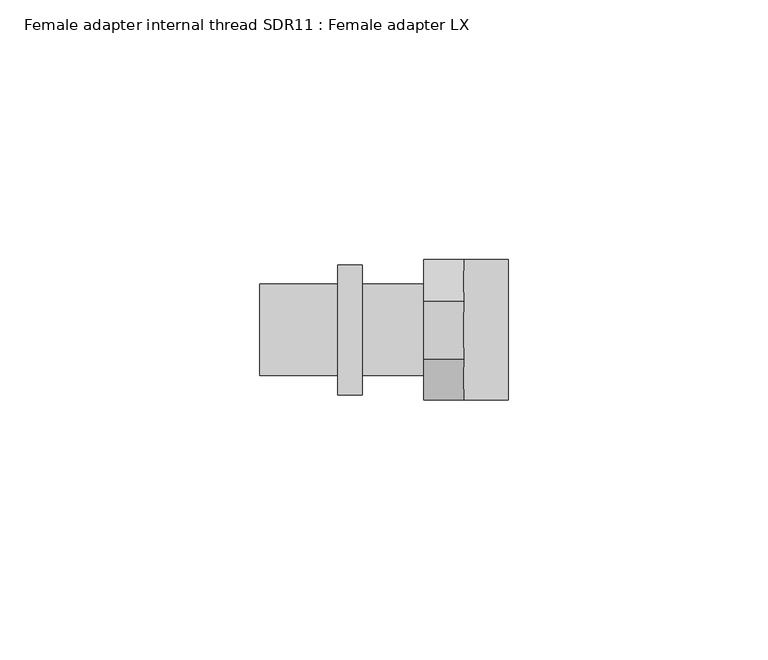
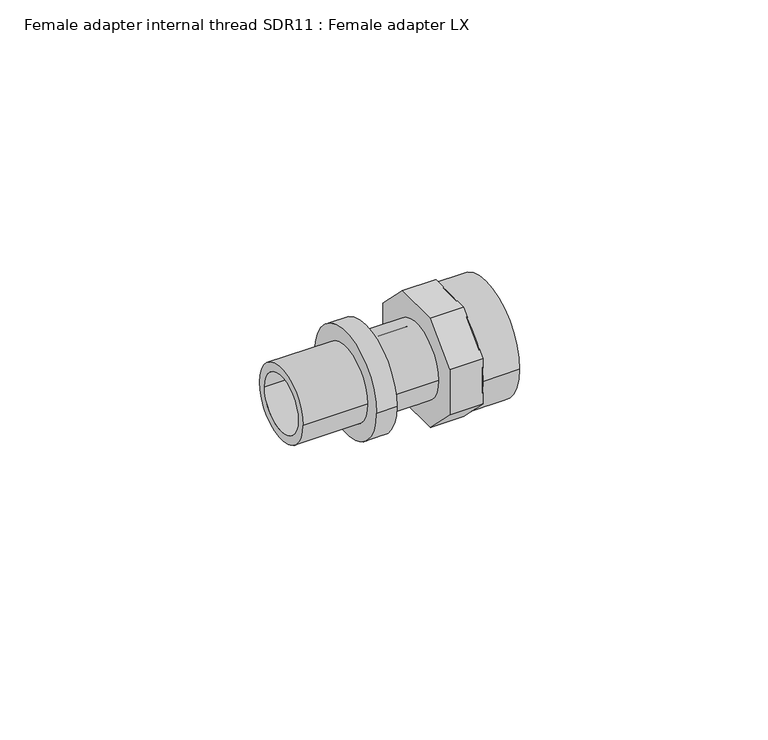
"""IFC4 building model written with IfcOpenShell, lengths in millimetres: pipe fitting geometry, Female adapter internal thread SDR11 : Female adapter LX."""

from ifc_helpers import new_model, si_unit, point, frame, origin, origin_2d, place, context, project, spatial, polyline, circle_curve, trimmed, segment, composite_curve, outline, extrude, source, transform, mapped, element, save
from ifc_brep_helpers import plane_surface, cylinder_surface, revolved_surface, advanced_brep


def female_adapter_internal_thread_sdr11_female_adapter_lx_e3558355(model_context):
    return source(origin(), model_context, "Body", "SolidModel", [
        extrude(outline(composite_curve([segment(trimmed(circle_curve(origin_2d(), 13.5), [point((13.5, 0.0))], [point((-13.5, 0.0))], False, "CARTESIAN"), True, "CONTINUOUS"), segment(trimmed(circle_curve(origin_2d(), 13.5), [point((-13.5, 0.0))], [point((13.5, 0.0))], False, "CARTESIAN"), True, "CONTINUOUS")], self_intersect=False), holes=[composite_curve([segment(trimmed(circle_curve(origin_2d(), 9.35), [point((9.35, 0.0))], [point((-9.35, 0.0))], True, "CARTESIAN"), True, "CONTINUOUS"), segment(trimmed(circle_curve(origin_2d(), 9.35), [point((-9.35, 0.0))], [point((9.35, 0.0))], True, "CARTESIAN"), True, "CONTINUOUS")], self_intersect=False)]), frame((7.7, 0.0, 0.0), z_axis=(1.0, 0.0, 0.0), x_axis=(0.0, 1.0, 0.0)), (0.0, 0.0, 1.0), 8.5),
        advanced_brep(
        [(-16.5, 8.8, 0.0), (-16.5, -8.8, 0.0), (-31.5, -8.8, 0.0), (-31.5, 8.8, 0.0), (-11.8, 12.5, 0.0), (-11.8, -12.5, 0.0), (-16.5, -12.5, 0.0), (-16.5, 12.5, 0.0), (0.0, 8.8, 0.0), (0.0, -8.8, 0.0), (-11.8, -8.8, 0.0), (-11.8, 8.8, 0.0), (-31.5, 6.8, 0.0), (-31.5, -6.8, 0.0), (0.0, -6.8, 0.0), (0.0, 6.8, 0.0)],
        [
            (0, 1, circle_curve(frame((-16.5, 0.0, 0.0), z_axis=(-1.0, 0.0, 0.0), x_axis=(0.0, -1.0, 0.0)), 8.8)),
            (1, 2),
            (2, 3, circle_curve(frame((-31.5, 0.0, 0.0), z_axis=(1.0, 0.0, 0.0), x_axis=(0.0, -1.0, 0.0)), 8.8)),
            (3, 0),
            (4, 5, circle_curve(frame((-11.8, 0.0, 0.0), z_axis=(-1.0, 0.0, 0.0), x_axis=(0.0, -1.0, 0.0)), 12.5)),
            (5, 6),
            (6, 7, circle_curve(frame((-16.5, 0.0, 0.0), z_axis=(1.0, 0.0, 0.0), x_axis=(0.0, -1.0, 0.0)), 12.5)),
            (7, 4),
            (8, 9, circle_curve(frame((0.0, 0.0, 0.0), z_axis=(-1.0, 0.0, 0.0), x_axis=(0.0, -1.0, 0.0)), 8.8)),
            (9, 10),
            (10, 11, circle_curve(frame((-11.8, 0.0, 0.0), z_axis=(1.0, 0.0, 0.0), x_axis=(0.0, -1.0, 0.0)), 8.8)),
            (11, 8),
            (12, 13, circle_curve(frame((-31.5, 0.0, 0.0), z_axis=(-1.0, 0.0, 0.0), x_axis=(0.0, -1.0, 0.0)), 6.8)),
            (13, 14),
            (14, 15, circle_curve(frame((0.0, 0.0, 0.0), z_axis=(1.0, 0.0, 0.0), x_axis=(0.0, -1.0, 0.0)), 6.8)),
            (15, 12),
            (2, 3, circle_curve(frame((-31.5, 0.0, 0.0), z_axis=(-1.0, 0.0, 0.0), x_axis=(0.0, 1.0, 0.0)), 8.8)),
            (12, 13, circle_curve(frame((-31.5, 0.0, 0.0), z_axis=(1.0, 0.0, 0.0), x_axis=(0.0, 1.0, 0.0)), 6.8)),
            (1, 0, circle_curve(frame((-16.5, 0.0, 0.0), z_axis=(-1.0, 0.0, 0.0), x_axis=(0.0, 1.0, 0.0)), 8.8)),
            (6, 7, circle_curve(frame((-16.5, 0.0, 0.0), z_axis=(-1.0, 0.0, 0.0), x_axis=(0.0, 1.0, 0.0)), 12.5)),
            (5, 4, circle_curve(frame((-11.8, 0.0, 0.0), z_axis=(-1.0, 0.0, 0.0), x_axis=(0.0, 1.0, 0.0)), 12.5)),
            (10, 11, circle_curve(frame((-11.8, 0.0, 0.0), z_axis=(-1.0, 0.0, 0.0), x_axis=(0.0, 1.0, 0.0)), 8.8)),
            (9, 8, circle_curve(frame((0.0, 0.0, 0.0), z_axis=(-1.0, 0.0, 0.0), x_axis=(0.0, 1.0, 0.0)), 8.8)),
            (14, 15, circle_curve(frame((0.0, 0.0, 0.0), z_axis=(-1.0, 0.0, 0.0), x_axis=(0.0, 1.0, 0.0)), 6.8)),
        ],
        [
            cylinder_surface(frame((0.0, 0.0, 0.0), z_axis=(1.0, 0.0, 0.0), x_axis=(0.0, -1.0, 0.0)), 8.8),
            cylinder_surface(frame((0.0, 0.0, 0.0), z_axis=(1.0, 0.0, 0.0), x_axis=(0.0, -1.0, 0.0)), 12.5),
            revolved_surface(polyline([(0.0, -6.8, 0.0), (-31.5, -6.8, 0.0)]), (0.0, 0.0, 0.0), (1.0, 0.0, 0.0)),
            plane_surface(frame((-31.5, 0.0, 0.0), z_axis=(-1.0, 0.0, 0.0), x_axis=(0.0, 1.0, 0.0))),
            cylinder_surface(frame((0.0, 0.0, 0.0), z_axis=(1.0, 0.0, 0.0), x_axis=(0.0, 1.0, 0.0)), 8.8),
            plane_surface(frame((-16.5, 0.0, 0.0), z_axis=(-1.0, 0.0, 0.0), x_axis=(0.0, 1.0, 0.0))),
            cylinder_surface(frame((0.0, 0.0, 0.0), z_axis=(1.0, 0.0, 0.0), x_axis=(0.0, 1.0, 0.0)), 12.5),
            plane_surface(frame((-11.8, 0.0, 0.0), z_axis=(1.0, 0.0, 0.0), x_axis=(0.0, 1.0, 0.0))),
            plane_surface(frame((0.0, 0.0, 0.0), z_axis=(1.0, 0.0, 0.0), x_axis=(0.0, 1.0, 0.0))),
            revolved_surface(polyline([(0.0, 6.8, 0.0), (-31.5, 6.8, 0.0)]), (0.0, 0.0, 0.0), (1.0, 0.0, 0.0)),
        ],
        [
            (0, [[1, 2, 3, 4]]),
            (1, [[5, 6, 7, 8]]),
            (0, [[9, 10, 11, 12]]),
            (2, [[13, 14, 15, 16]]),
            (3, [[17, -3], [18, -13]]),
            (4, [[19, -4, -17, -2]]),
            (5, [[20, -7], [-19, -1]]),
            (6, [[21, -8, -20, -6]]),
            (7, [[-21, -5], [22, -11]]),
            (4, [[23, -12, -22, -10]]),
            (8, [[-23, -9], [24, -15]]),
            (9, [[-18, -16, -24, -14]]),
        ],
    ),
        extrude(outline(polyline([(-13.5, 5.5918831), (-5.5918831, 13.5), (5.5918831, 13.5), (13.5, 5.5918831), (13.5, -5.5918831), (5.5918831, -13.5), (-5.5918831, -13.5), (-13.5, -5.5918831), (-13.5, 5.5918831)])), frame((0.0, 0.0, 0.0), z_axis=(1.0, 0.0, 0.0), x_axis=(0.0, 1.0, 0.0)), (0.0, 0.0, 1.0), 7.7),
    ])


if __name__ == "__main__":
    model = new_model("IFC4")
    model_context = context("Model", 3, world=origin())
    ifc_project = project(units=[si_unit("LENGTHUNIT", "METRE", prefix="MILLI")], contexts=[model_context])
    site = spatial("IfcSite", under=ifc_project)
    building = spatial("IfcBuilding", under=site)
    placement = place(None, origin())
    female_adapter_internal_thread_sdr11_female_adapter_lx_shape = female_adapter_internal_thread_sdr11_female_adapter_lx_e3558355(model_context)
    element("IfcPipeFitting", 1, ObjectType="Female adapter internal thread SDR11 : Female adapter LX", at=placement, inside=building, context=model_context, shape_type="MappedRepresentation", body=[
        mapped(female_adapter_internal_thread_sdr11_female_adapter_lx_shape, transform((0.0, 0.0, 0.0), x_axis=(1.0, 0.0, 0.0), y_axis=(0.0, 1.0, 0.0), z_axis=(0.0, 0.0, 1.0))),
    ])
    save(model, "model.ifc")
